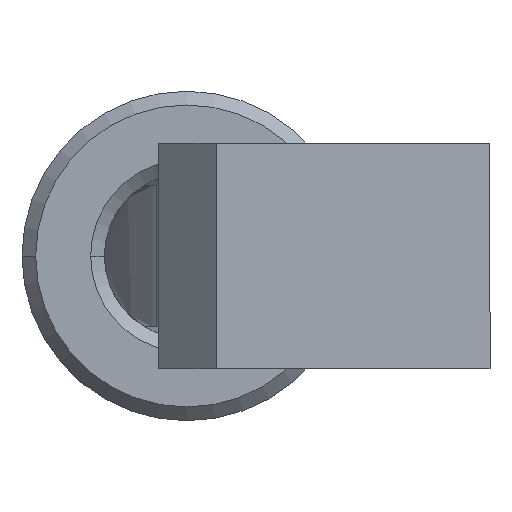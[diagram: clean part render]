
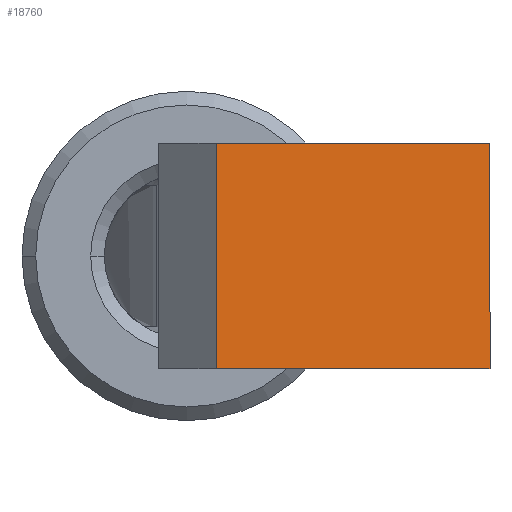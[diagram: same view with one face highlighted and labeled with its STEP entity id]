
A CAD part, left-side view. The second image highlights one B-rep face of the part: STEP entity #18760.
In plain terms, the highlighted planar face has unit normal (-0.998, -0.07, 0).
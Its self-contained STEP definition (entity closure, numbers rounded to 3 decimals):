
#477 = EDGE_CURVE ( 'NONE', #24337, #8816, #15132, .T. ) ;
#979 = VECTOR ( 'NONE', #10770, 1000. ) ;
#1544 = CARTESIAN_POINT ( 'NONE',  ( -161.633, -185.083, -4.1 ) ) ;
#2687 = CARTESIAN_POINT ( 'NONE',  ( -161.633, -185.083, -15. ) ) ;
#2928 = CARTESIAN_POINT ( 'NONE',  ( -174.5, -1.07, 4.1 ) ) ;
#5652 = LINE ( 'NONE', #1544, #26564 ) ;
#6939 = CARTESIAN_POINT ( 'NONE',  ( -173.802, -11.046, -15. ) ) ;
#8816 = VERTEX_POINT ( 'NONE', #2928 ) ;
#9830 = VERTEX_POINT ( 'NONE', #17425 ) ;
#10279 = ORIENTED_EDGE ( 'NONE', *, *, #477, .F. ) ;
#10341 = AXIS2_PLACEMENT_3D ( 'NONE', #2687, #25684, #19654 ) ;
#10770 = DIRECTION ( 'NONE',  ( 0., 0., 1. ) ) ;
#11042 = LINE ( 'NONE', #6939, #979 ) ;
#11176 = FACE_OUTER_BOUND ( 'NONE', #20228, .T. ) ;
#11249 = EDGE_CURVE ( 'NONE', #9830, #24337, #5652, .T. ) ;
#12094 = LINE ( 'NONE', #14916, #18687 ) ;
#12430 = EDGE_CURVE ( 'NONE', #13607, #8816, #12094, .T. ) ;
#13607 = VERTEX_POINT ( 'NONE', #17544 ) ;
#14208 = EDGE_CURVE ( 'NONE', #9830, #13607, #11042, .T. ) ;
#14916 = CARTESIAN_POINT ( 'NONE',  ( -161.633, -185.083, 4.1 ) ) ;
#15132 = LINE ( 'NONE', #17717, #19158 ) ;
#17425 = CARTESIAN_POINT ( 'NONE',  ( -173.802, -11.046, -4.1 ) ) ;
#17544 = CARTESIAN_POINT ( 'NONE',  ( -173.802, -11.046, 4.1 ) ) ;
#17717 = CARTESIAN_POINT ( 'NONE',  ( -174.5, -1.07, -15. ) ) ;
#18687 = VECTOR ( 'NONE', #20430, 1000. ) ;
#18760 = ADVANCED_FACE ( 'NONE', ( #11176 ), #19385, .T. ) ;
#19158 = VECTOR ( 'NONE', #19490, 1000. ) ;
#19385 = PLANE ( 'NONE',  #10341 ) ;
#19490 = DIRECTION ( 'NONE',  ( 0., 0., 1. ) ) ;
#19654 = DIRECTION ( 'NONE',  ( 0.07, -0.998, 0. ) ) ;
#19879 = DIRECTION ( 'NONE',  ( -0.07, 0.998, 0. ) ) ;
#20228 = EDGE_LOOP ( 'NONE', ( #25023, #27041, #24884, #10279 ) ) ;
#20430 = DIRECTION ( 'NONE',  ( -0.07, 0.998, 0. ) ) ;
#20555 = CARTESIAN_POINT ( 'NONE',  ( -174.5, -1.07, -4.1 ) ) ;
#24337 = VERTEX_POINT ( 'NONE', #20555 ) ;
#24884 = ORIENTED_EDGE ( 'NONE', *, *, #12430, .T. ) ;
#25023 = ORIENTED_EDGE ( 'NONE', *, *, #11249, .F. ) ;
#25684 = DIRECTION ( 'NONE',  ( -0.998, -0.07, 0. ) ) ;
#26564 = VECTOR ( 'NONE', #19879, 1000. ) ;
#27041 = ORIENTED_EDGE ( 'NONE', *, *, #14208, .T. ) ;
